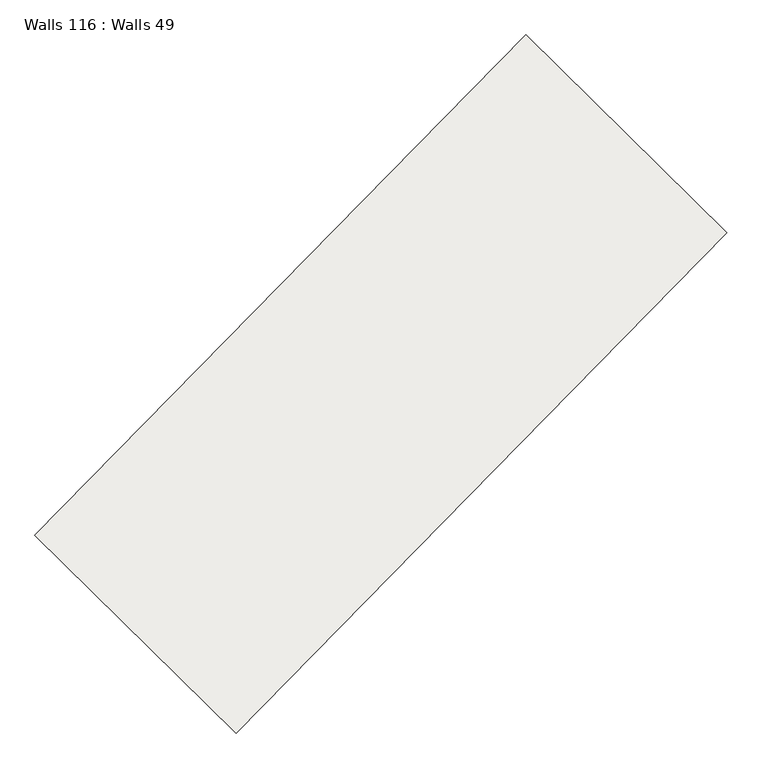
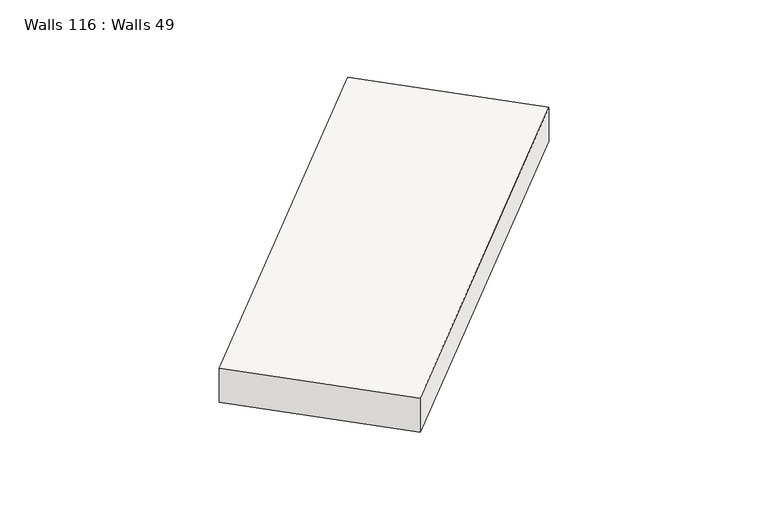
"""IFC4 building model written with IfcOpenShell, lengths in millimetres: slab geometry, Walls 116 : Walls 49."""

from ifc_helpers import new_model, si_unit, frame, origin, place, context, project, spatial, polyline, outline, extrude, source, transform, mapped, element, save


def walls_116_walls_49_0d738829(model_context):
    return source(origin(), model_context, "Body", "SweptSolid", [
        extrude(outline(polyline([(-350.0, 0.0), (350.0, 0.0), (260.0, -8699.9999995), (-440.0, -8699.9999995), (-350.0, 0.0)])), frame((-85332.0714503, -246157.172713, 637210.0), z_axis=(-0.7137361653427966, 0.70041465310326, 0.0), x_axis=(0.0, 0.0, 1.0)), (0.0, 0.0, 1.0), 3499.999995),
    ])


if __name__ == "__main__":
    model = new_model("IFC4")
    model_context = context("Model", 3, world=origin())
    ifc_project = project(units=[si_unit("LENGTHUNIT", "METRE", prefix="MILLI")], contexts=[model_context])
    site = spatial("IfcSite", under=ifc_project)
    building = spatial("IfcBuilding", under=site)
    placement = place(None, origin())
    walls_116_walls_49_shape = walls_116_walls_49_0d738829(model_context)
    element("IfcSlab", 1, ObjectType="Walls 116 : Walls 49", at=placement, inside=building, context=model_context, shape_type="MappedRepresentation", body=[
        mapped(walls_116_walls_49_shape, transform((0.0, 0.0, 0.0), x_axis=(1.0, 0.0, 0.0), y_axis=(0.0, 1.0, 0.0), z_axis=(0.0, 0.0, 1.0))),
    ])
    save(model, "model.ifc")
